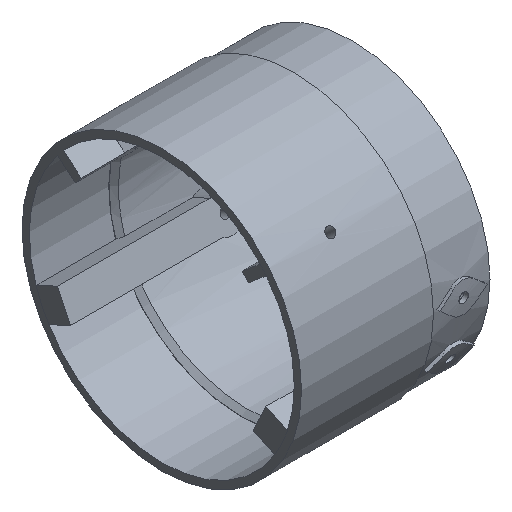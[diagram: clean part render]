
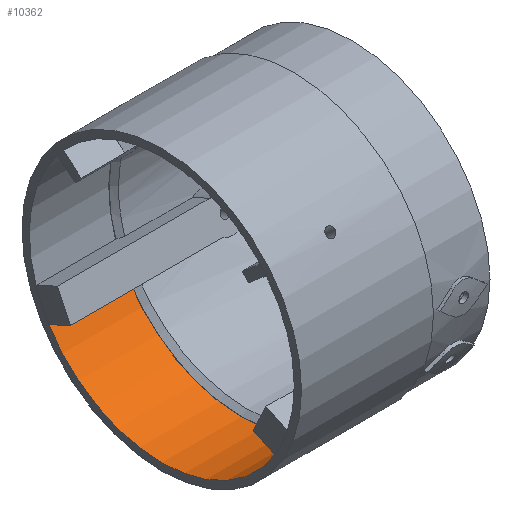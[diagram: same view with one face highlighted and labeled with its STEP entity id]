
A CAD part, isometric view. The second image highlights one B-rep face of the part: STEP entity #10362.
In plain terms, the highlighted cylindrical face has radius 22.6 mm (diameter 45.2 mm), a partial arc.
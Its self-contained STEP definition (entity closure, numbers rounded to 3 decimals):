
#43 = PLANE('',#44);
#44 = AXIS2_PLACEMENT_3D('',#45,#46,#47);
#45 = CARTESIAN_POINT('',(347.5,0.,0.));
#46 = DIRECTION('',(1.,0.,0.));
#47 = DIRECTION('',(-0.,0.,1.));
#1262 = VERTEX_POINT('',#1263);
#1263 = CARTESIAN_POINT('',(347.5,19.248,
    -11.844));
#1277 = PLANE('',#1278);
#1278 = AXIS2_PLACEMENT_3D('',#1279,#1280,#1281);
#1279 = CARTESIAN_POINT('',(347.5,15.577,-10.133
    ));
#1280 = DIRECTION('',(0.,0.423,0.906));
#1281 = DIRECTION('',(1.,0.,0.));
#1314 = EDGE_CURVE('',#1262,#1315,#1317,.T.);
#1315 = VERTEX_POINT('',#1316);
#1316 = CARTESIAN_POINT('',(361.1,19.248,-11.844));
#1317 = SURFACE_CURVE('',#1318,(#1322,#1328),.PCURVE_S1.);
#1318 = LINE('',#1319,#1320);
#1319 = CARTESIAN_POINT('',(346.5,19.248,-11.844));
#1320 = VECTOR('',#1321,1.);
#1321 = DIRECTION('',(1.,0.,0.));
#1322 = PCURVE('',#1277,#1323);
#1323 = DEFINITIONAL_REPRESENTATION('',(#1324),#1327);
#1324 = B_SPLINE_CURVE_WITH_KNOTS('',1,(#1325,#1326),.UNSPECIFIED.,.F.,
  .F.,(2,2),(1.,14.6),.PIECEWISE_BEZIER_KNOTS.);
#1325 = CARTESIAN_POINT('',(0.,4.05));
#1326 = CARTESIAN_POINT('',(13.6,4.05));
#1327 = ( GEOMETRIC_REPRESENTATION_CONTEXT(2) 
PARAMETRIC_REPRESENTATION_CONTEXT() REPRESENTATION_CONTEXT('2D SPACE',''
  ) );
#1328 = PCURVE('',#1329,#1334);
#1329 = CYLINDRICAL_SURFACE('',#1330,22.6);
#1330 = AXIS2_PLACEMENT_3D('',#1331,#1332,#1333);
#1331 = CARTESIAN_POINT('',(346.5,0.,0.));
#1332 = DIRECTION('',(1.,0.,0.));
#1333 = DIRECTION('',(-0.,0.,1.));
#1334 = DEFINITIONAL_REPRESENTATION('',(#1335),#1338);
#1335 = B_SPLINE_CURVE_WITH_KNOTS('',1,(#1336,#1337),.UNSPECIFIED.,.F.,
  .F.,(2,2),(1.,14.6),.PIECEWISE_BEZIER_KNOTS.);
#1336 = CARTESIAN_POINT('',(4.161,1.));
#1337 = CARTESIAN_POINT('',(4.161,14.6));
#1338 = ( GEOMETRIC_REPRESENTATION_CONTEXT(2) 
PARAMETRIC_REPRESENTATION_CONTEXT() REPRESENTATION_CONTEXT('2D SPACE',''
  ) );
#1456 = PLANE('',#1457);
#1457 = AXIS2_PLACEMENT_3D('',#1458,#1459,#1460);
#1458 = CARTESIAN_POINT('',(361.1,0.,0.));
#1459 = DIRECTION('',(1.,0.,0.));
#1460 = DIRECTION('',(-0.,0.,1.));
#1824 = PLANE('',#1825);
#1825 = AXIS2_PLACEMENT_3D('',#1826,#1827,#1828);
#1826 = CARTESIAN_POINT('',(347.5,-15.577,
    -10.133));
#1827 = DIRECTION('',(0.,0.423,-0.906));
#1828 = DIRECTION('',(1.,0.,0.));
#1839 = EDGE_CURVE('',#1840,#1842,#1844,.T.);
#1840 = VERTEX_POINT('',#1841);
#1841 = CARTESIAN_POINT('',(347.5,-19.248,
    -11.844));
#1842 = VERTEX_POINT('',#1843);
#1843 = CARTESIAN_POINT('',(361.1,-19.248,-11.844));
#1844 = SURFACE_CURVE('',#1845,(#1849,#1855),.PCURVE_S1.);
#1845 = LINE('',#1846,#1847);
#1846 = CARTESIAN_POINT('',(346.5,-19.248,-11.844));
#1847 = VECTOR('',#1848,1.);
#1848 = DIRECTION('',(1.,0.,0.));
#1849 = PCURVE('',#1824,#1850);
#1850 = DEFINITIONAL_REPRESENTATION('',(#1851),#1854);
#1851 = B_SPLINE_CURVE_WITH_KNOTS('',1,(#1852,#1853),.UNSPECIFIED.,.F.,
  .F.,(2,2),(1.,14.6),.PIECEWISE_BEZIER_KNOTS.);
#1852 = CARTESIAN_POINT('',(0.,4.05));
#1853 = CARTESIAN_POINT('',(13.6,4.05));
#1854 = ( GEOMETRIC_REPRESENTATION_CONTEXT(2) 
PARAMETRIC_REPRESENTATION_CONTEXT() REPRESENTATION_CONTEXT('2D SPACE',''
  ) );
#1855 = PCURVE('',#1329,#1856);
#1856 = DEFINITIONAL_REPRESENTATION('',(#1857),#1860);
#1857 = B_SPLINE_CURVE_WITH_KNOTS('',1,(#1858,#1859),.UNSPECIFIED.,.F.,
  .F.,(2,2),(1.,14.6),.PIECEWISE_BEZIER_KNOTS.);
#1858 = CARTESIAN_POINT('',(2.122,1.));
#1859 = CARTESIAN_POINT('',(2.122,14.6));
#1860 = ( GEOMETRIC_REPRESENTATION_CONTEXT(2) 
PARAMETRIC_REPRESENTATION_CONTEXT() REPRESENTATION_CONTEXT('2D SPACE',''
  ) );
#10341 = EDGE_CURVE('',#1842,#1315,#10342,.T.);
#10342 = SURFACE_CURVE('',#10343,(#10348,#10355),.PCURVE_S1.);
#10343 = CIRCLE('',#10344,22.6);
#10344 = AXIS2_PLACEMENT_3D('',#10345,#10346,#10347);
#10345 = CARTESIAN_POINT('',(361.1,0.,0.));
#10346 = DIRECTION('',(1.,0.,0.));
#10347 = DIRECTION('',(-0.,0.,1.));
#10348 = PCURVE('',#1456,#10349);
#10349 = DEFINITIONAL_REPRESENTATION('',(#10350),#10354);
#10350 = CIRCLE('',#10351,22.6);
#10351 = AXIS2_PLACEMENT_2D('',#10352,#10353);
#10352 = CARTESIAN_POINT('',(0.,0.));
#10353 = DIRECTION('',(1.,0.));
#10354 = ( GEOMETRIC_REPRESENTATION_CONTEXT(2) 
PARAMETRIC_REPRESENTATION_CONTEXT() REPRESENTATION_CONTEXT('2D SPACE',''
  ) );
#10355 = PCURVE('',#1329,#10356);
#10356 = DEFINITIONAL_REPRESENTATION('',(#10357),#10361);
#10357 = LINE('',#10358,#10359);
#10358 = CARTESIAN_POINT('',(0.,14.6));
#10359 = VECTOR('',#10360,1.);
#10360 = DIRECTION('',(1.,0.));
#10361 = ( GEOMETRIC_REPRESENTATION_CONTEXT(2) 
PARAMETRIC_REPRESENTATION_CONTEXT() REPRESENTATION_CONTEXT('2D SPACE',''
  ) );
#10362 = ADVANCED_FACE('',(#10363),#1329,.F.);
#10363 = FACE_BOUND('',#10364,.F.);
#10364 = EDGE_LOOP('',(#10365,#10366,#10388,#10389));
#10365 = ORIENTED_EDGE('',*,*,#1839,.F.);
#10366 = ORIENTED_EDGE('',*,*,#10367,.T.);
#10367 = EDGE_CURVE('',#1840,#1262,#10368,.T.);
#10368 = SURFACE_CURVE('',#10369,(#10374,#10381),.PCURVE_S1.);
#10369 = CIRCLE('',#10370,22.6);
#10370 = AXIS2_PLACEMENT_3D('',#10371,#10372,#10373);
#10371 = CARTESIAN_POINT('',(347.5,0.,0.));
#10372 = DIRECTION('',(1.,0.,0.));
#10373 = DIRECTION('',(-0.,0.,1.));
#10374 = PCURVE('',#1329,#10375);
#10375 = DEFINITIONAL_REPRESENTATION('',(#10376),#10380);
#10376 = LINE('',#10377,#10378);
#10377 = CARTESIAN_POINT('',(0.,1.));
#10378 = VECTOR('',#10379,1.);
#10379 = DIRECTION('',(1.,0.));
#10380 = ( GEOMETRIC_REPRESENTATION_CONTEXT(2) 
PARAMETRIC_REPRESENTATION_CONTEXT() REPRESENTATION_CONTEXT('2D SPACE',''
  ) );
#10381 = PCURVE('',#43,#10382);
#10382 = DEFINITIONAL_REPRESENTATION('',(#10383),#10387);
#10383 = CIRCLE('',#10384,22.6);
#10384 = AXIS2_PLACEMENT_2D('',#10385,#10386);
#10385 = CARTESIAN_POINT('',(0.,0.));
#10386 = DIRECTION('',(1.,0.));
#10387 = ( GEOMETRIC_REPRESENTATION_CONTEXT(2) 
PARAMETRIC_REPRESENTATION_CONTEXT() REPRESENTATION_CONTEXT('2D SPACE',''
  ) );
#10388 = ORIENTED_EDGE('',*,*,#1314,.T.);
#10389 = ORIENTED_EDGE('',*,*,#10341,.F.);
